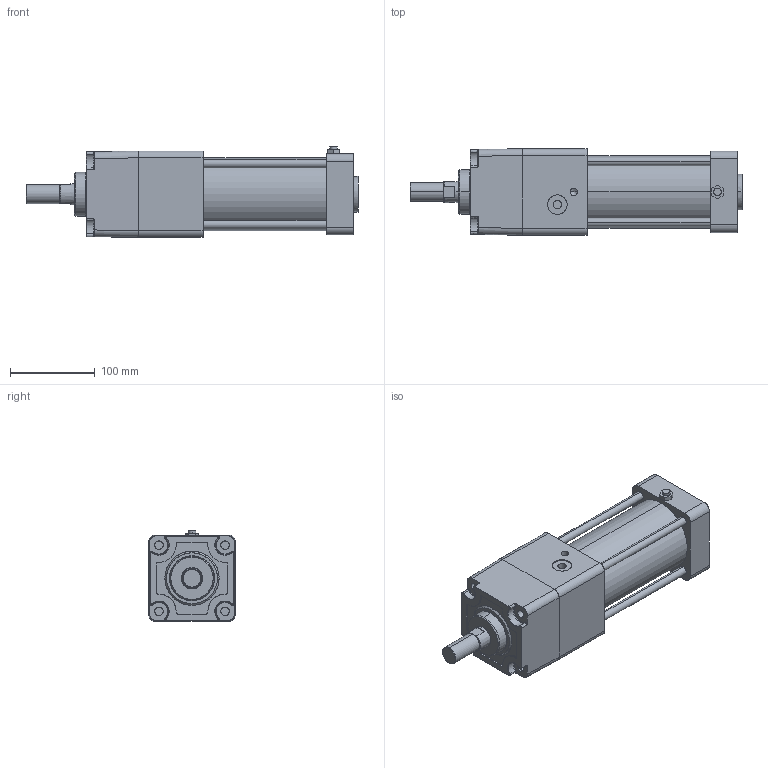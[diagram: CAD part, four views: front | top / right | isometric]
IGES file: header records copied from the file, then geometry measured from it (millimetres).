
Start section: SolidWorks IGES file using analytic representation for surfaces
Global section: file name: C:\Users\Toshiba\Desktop\KGSP2-80-100-N.IGS; native system: SolidWorks 2014; preprocessor: SolidWorks 2014; author: Toshiba; date: 160420.160043; units: millimetre
Bounding box: 392 x 102 x 107.3 mm (x, y, z)
Surface area: 250603.1 mm2 (no closed solid volume)
Topology: 0 solids, 0 shells, 332 faces, 5406 edges, 5388 vertices
Faces by surface type: revolution 174, bspline 158
